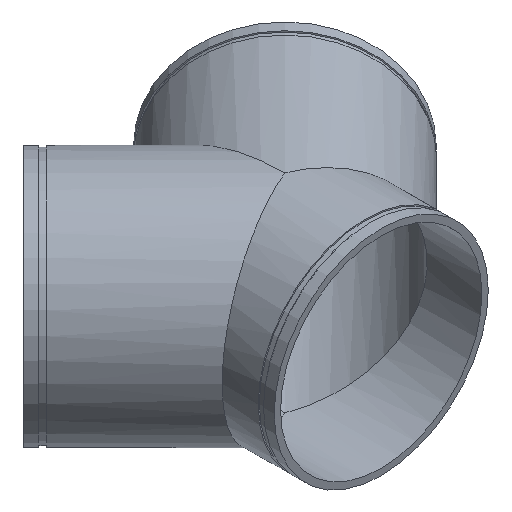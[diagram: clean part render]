
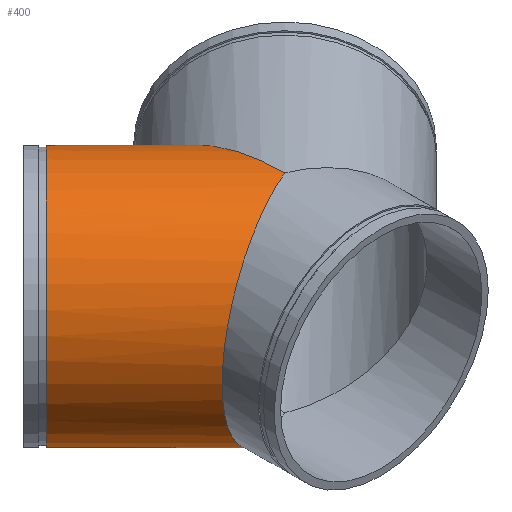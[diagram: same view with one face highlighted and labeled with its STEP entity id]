
A CAD part, isometric view. The second image highlights one B-rep face of the part: STEP entity #400.
In plain terms, the highlighted cylindrical face has radius 254 mm (diameter 508 mm), a full revolution.
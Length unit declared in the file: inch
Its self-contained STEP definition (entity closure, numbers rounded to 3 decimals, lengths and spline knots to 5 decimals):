
#76=FACE_OUTER_BOUND('',#103,.T.);
#103=EDGE_LOOP('',(#314,#315,#316,#317,#318,#319,#320,#321));
#118=ELLIPSE('',#470,14.14214,10.);
#119=ELLIPSE('',#471,10.82392,10.);
#120=ELLIPSE('',#472,10.82392,10.);
#121=ELLIPSE('',#473,14.14214,10.);
#131=LINE('',#735,#143);
#143=VECTOR('',#595,10.);
#156=CIRCLE('',#446,10.);
#157=CIRCLE('',#447,10.);
#186=VERTEX_POINT('',#686);
#187=VERTEX_POINT('',#687);
#202=VERTEX_POINT('',#730);
#203=VERTEX_POINT('',#731);
#204=VERTEX_POINT('',#733);
#205=VERTEX_POINT('',#736);
#223=EDGE_CURVE('',#186,#187,#156,.T.);
#224=EDGE_CURVE('',#187,#186,#157,.T.);
#243=EDGE_CURVE('',#202,#203,#118,.T.);
#244=EDGE_CURVE('',#204,#202,#119,.T.);
#245=EDGE_CURVE('',#204,#187,#131,.T.);
#246=EDGE_CURVE('',#205,#204,#120,.T.);
#247=EDGE_CURVE('',#203,#205,#121,.T.);
#314=ORIENTED_EDGE('',*,*,#243,.F.);
#315=ORIENTED_EDGE('',*,*,#244,.F.);
#316=ORIENTED_EDGE('',*,*,#245,.T.);
#317=ORIENTED_EDGE('',*,*,#224,.T.);
#318=ORIENTED_EDGE('',*,*,#223,.T.);
#319=ORIENTED_EDGE('',*,*,#245,.F.);
#320=ORIENTED_EDGE('',*,*,#246,.F.);
#321=ORIENTED_EDGE('',*,*,#247,.F.);
#359=CYLINDRICAL_SURFACE('',#469,10.);
#400=ADVANCED_FACE('',(#76),#359,.T.);
#446=AXIS2_PLACEMENT_3D('',#688,#539,#540);
#447=AXIS2_PLACEMENT_3D('',#689,#541,#542);
#469=AXIS2_PLACEMENT_3D('',#729,#589,#590);
#470=AXIS2_PLACEMENT_3D('',#732,#591,#592);
#471=AXIS2_PLACEMENT_3D('',#734,#593,#594);
#472=AXIS2_PLACEMENT_3D('',#737,#596,#597);
#473=AXIS2_PLACEMENT_3D('',#738,#598,#599);
#539=DIRECTION('center_axis',(0.707,-0.707,0.));
#540=DIRECTION('ref_axis',(0.707,0.707,0.));
#541=DIRECTION('center_axis',(0.707,-0.707,0.));
#542=DIRECTION('ref_axis',(0.707,0.707,0.));
#589=DIRECTION('center_axis',(0.707,-0.707,0.));
#590=DIRECTION('ref_axis',(0.707,0.707,0.));
#591=DIRECTION('center_axis',(1.,0.,0.));
#592=DIRECTION('ref_axis',(0.,1.,0.));
#593=DIRECTION('center_axis',(0.383,-0.924,0.));
#594=DIRECTION('ref_axis',(0.924,0.383,0.));
#595=DIRECTION('',(-0.707,0.707,0.));
#596=DIRECTION('center_axis',(0.383,-0.924,0.));
#597=DIRECTION('ref_axis',(0.924,0.383,0.));
#598=DIRECTION('center_axis',(1.,0.,0.));
#599=DIRECTION('ref_axis',(0.,1.,0.));
#686=CARTESIAN_POINT('',(-4.06586,18.208,0.));
#687=CARTESIAN_POINT('',(-18.208,4.06586,0.));
#688=CARTESIAN_POINT('Origin',(-11.13693,11.13693,0.));
#689=CARTESIAN_POINT('Origin',(-11.13693,11.13693,0.));
#729=CARTESIAN_POINT('Origin',(-12.19759,12.19759,0.));
#730=CARTESIAN_POINT('',(0.,0.,-10.));
#731=CARTESIAN_POINT('',(0.,14.14214,0.));
#732=CARTESIAN_POINT('Origin',(0.,0.,0.));
#733=CARTESIAN_POINT('',(-10.,-4.14214,0.));
#734=CARTESIAN_POINT('Origin',(0.,0.,0.));
#735=CARTESIAN_POINT('',(-19.26866,5.12652,0.));
#736=CARTESIAN_POINT('',(0.,0.,10.));
#737=CARTESIAN_POINT('Origin',(0.,0.,0.));
#738=CARTESIAN_POINT('Origin',(0.,0.,0.));
